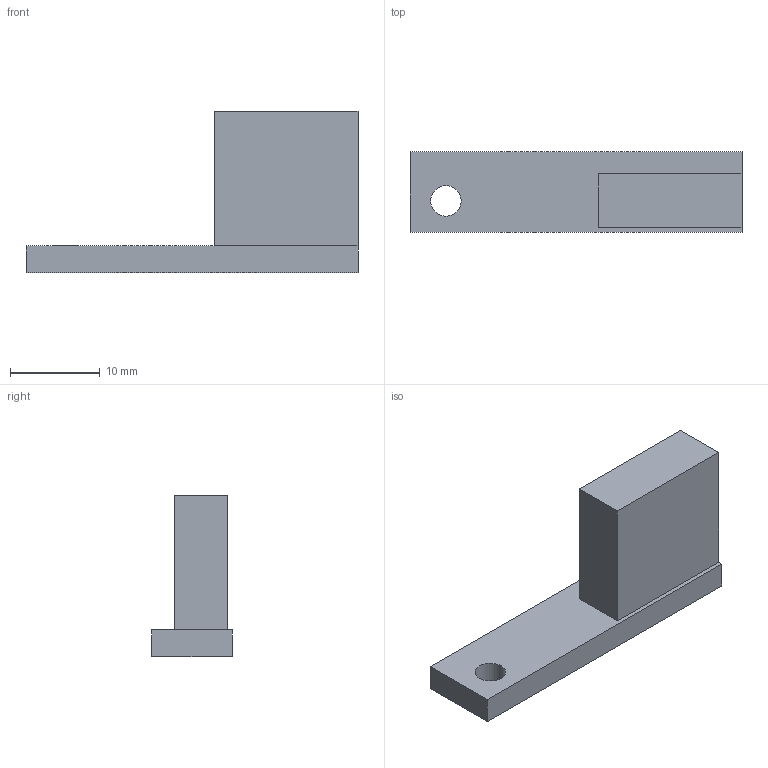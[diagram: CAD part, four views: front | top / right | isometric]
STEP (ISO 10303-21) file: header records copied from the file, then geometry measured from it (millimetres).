
FILE_DESCRIPTION(('Open CASCADE Model'),'2;1');
FILE_NAME('Open CASCADE Shape Model','2026-10-22T07:40:54',('Author'),( 'Open CASCADE'),'Open CASCADE STEP processor 7.8','Open CASCADE 7.8' ,'Unknown');
FILE_SCHEMA(('AUTOMOTIVE_DESIGN { 1 0 10303 214 1 1 1 1 }'));
Length unit declared in the file: millimetre
Products named in the file (1): Open CASCADE STEP translator 7.8 6
Bounding box: 37 x 9 x 18 mm (x, y, z)
Volume: 2411.8 mm3; surface area: 1615.9 mm2
Topology: 1 solids, 1 shells, 11 faces, 27 edges, 18 vertices
Faces by surface type: plane 10, cylinder 1
Full cylindrical faces by diameter (mm): 3.4 x1
Entity records: 694 total; most frequent: CARTESIAN_POINT 123, DIRECTION 105, LINE 77, VECTOR 77, ORIENTED_EDGE 54, PCURVE 54, DEFINITIONAL_REPRESENTATION 54, EDGE_CURVE 27
